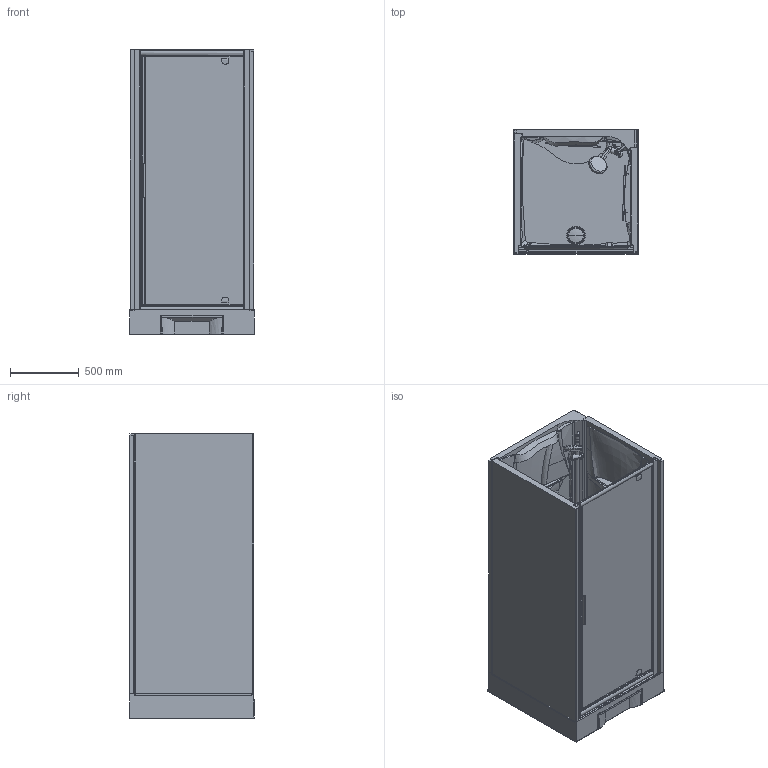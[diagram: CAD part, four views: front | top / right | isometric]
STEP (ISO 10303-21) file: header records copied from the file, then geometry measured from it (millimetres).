
FILE_DESCRIPTION(('STEP AP203'),'2;1');
FILE_NAME('NNH BI 90 M.stp','2015-09-04T15:01:16',(''),(''),'2014.1.117','THINKDESIGN','');
FILE_SCHEMA(('CONFIG_CONTROL_DESIGN'));
Bounding box: 904 x 907.51 x 2063.06 mm (x, y, z)
Volume: 255150485 mm3; surface area: 18237285.4 mm2
Topology: 24 solids, 24 shells, 618 faces, 1536 edges, 965 vertices
Faces by surface type: bspline 395, plane 155, cylinder 68
Entity records: 102477 total; most frequent: CARTESIAN_POINT 90381, ORIENTED_EDGE 3032, EDGE_CURVE 1516, DIRECTION 1406, VERTEX_POINT 961, VECTOR 638, LINE 638, EDGE_LOOP 631
